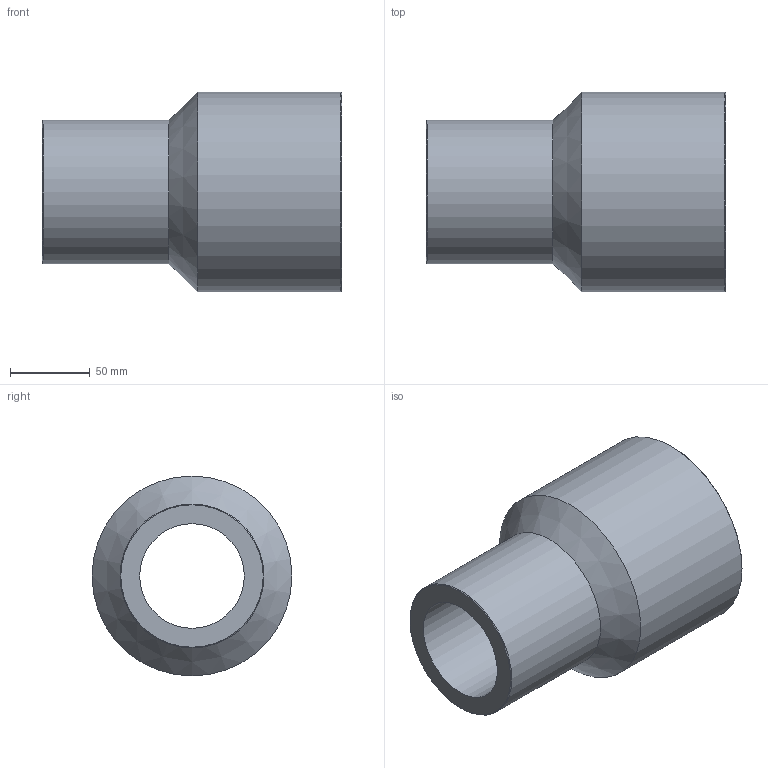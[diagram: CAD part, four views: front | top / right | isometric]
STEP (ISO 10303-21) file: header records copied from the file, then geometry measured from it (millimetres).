
FILE_DESCRIPTION(/* description */ ('Unknown'),/* implementation_level */ '2;1');
FILE_NAME(/* name */ 'RP125090H',/* time_stamp */ '2021-09-16T12:21:23+02:00',/* author */ ('Unknown'),/* organization */ ('Unknown'),/* preprocessor_version */ 'ST-DEVELOPER v16.7',/* originating_system */ 'Solid Edge',/* authorisation */ 'Unknown');
FILE_SCHEMA (('AUTOMOTIVE_DESIGN {1 0 10303 214 3 1 1}'));
Length unit declared in the file: millimetre
Products named in the file (1): RP125090H
Bounding box: 187 x 125 x 125 mm (x, y, z)
Volume: 855486.2 mm3; surface area: 121506.4 mm2
Topology: 1 solids, 1 shells, 10 faces, 19 edges, 11 vertices
Faces by surface type: cylinder 4, cone 4, plane 2
Full cylindrical faces by diameter (mm): 65.4 x1, 90 x1, 90.8 x1, 125 x1
Entity records: 238 total; most frequent: DIRECTION 42, CARTESIAN_POINT 31, AXIS2_PLACEMENT_3D 21, ORIENTED_EDGE 20, EDGE_LOOP 20, FACE_BOUND 20, EDGE_CURVE 10, VERTEX_POINT 10
